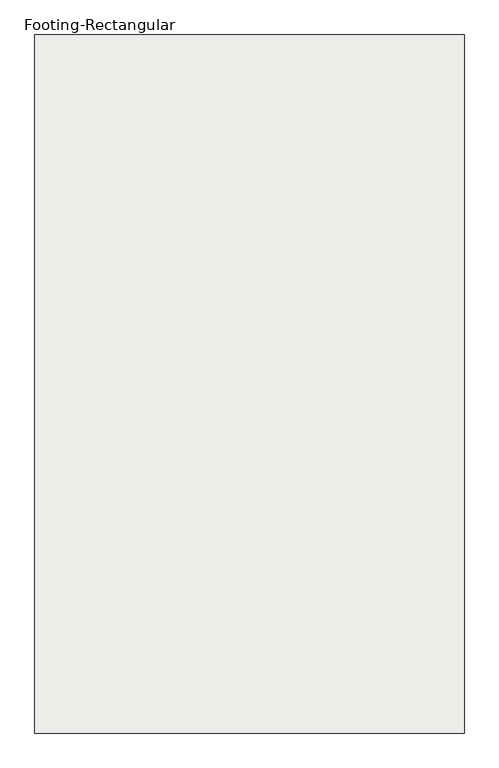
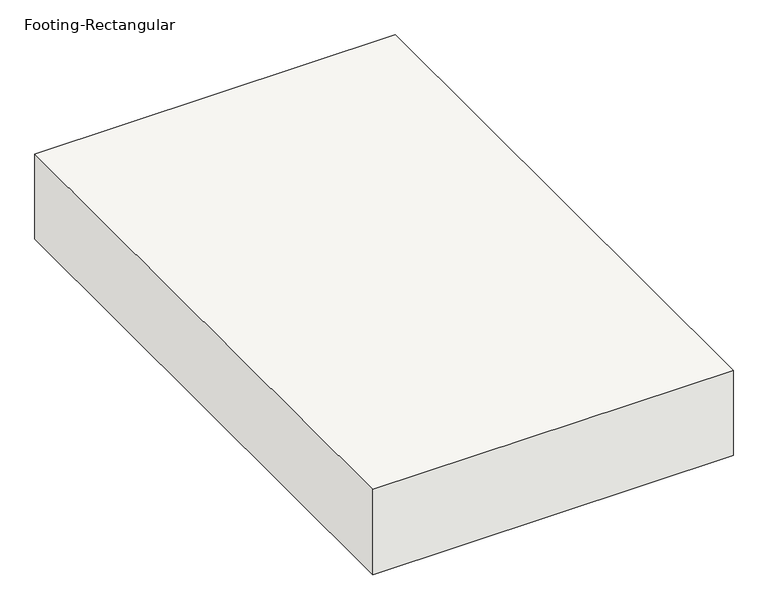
"""IFC4 building model written with IfcOpenShell, lengths in millimetres: slab geometry."""

from ifc_helpers import new_model, si_unit, frame, origin, place, context, project, spatial, polyline, outline, extrude, source, transform, mapped, element, save


def footing_rectangular_1b3ddeb7(model_context):
    return source(origin(), model_context, "Body", "SweptSolid", [
        extrude(outline(polyline([(1219.2, -1981.2), (-1219.2, -1981.2), (-1219.2, 1981.2), (1219.2, 1981.2), (1219.2, -1981.2)])), frame((0.0, 0.0, -609.6), z_axis=(0.0, 0.0, 1.0), x_axis=(1.0, 0.0, 0.0)), (0.0, 0.0, 1.0), 609.6),
    ])


if __name__ == "__main__":
    model = new_model("IFC4")
    model_context = context("Model", 3, world=origin())
    ifc_project = project(units=[si_unit("LENGTHUNIT", "METRE", prefix="MILLI")], contexts=[model_context])
    site = spatial("IfcSite", under=ifc_project)
    building = spatial("IfcBuilding", under=site)
    placement = place(None, origin())
    footing_rectangular_shape = footing_rectangular_1b3ddeb7(model_context)
    element("IfcSlab", 1, ObjectType="Footing-Rectangular : 8''-0\" x 13'-0\"", at=placement, inside=building, context=model_context, shape_type="MappedRepresentation", body=[
        mapped(footing_rectangular_shape, transform((0.0, 0.0, 0.0), x_axis=(1.0, 0.0, 0.0), y_axis=(0.0, 1.0, 0.0), z_axis=(0.0, 0.0, 1.0))),
    ])
    save(model, "model.ifc")
